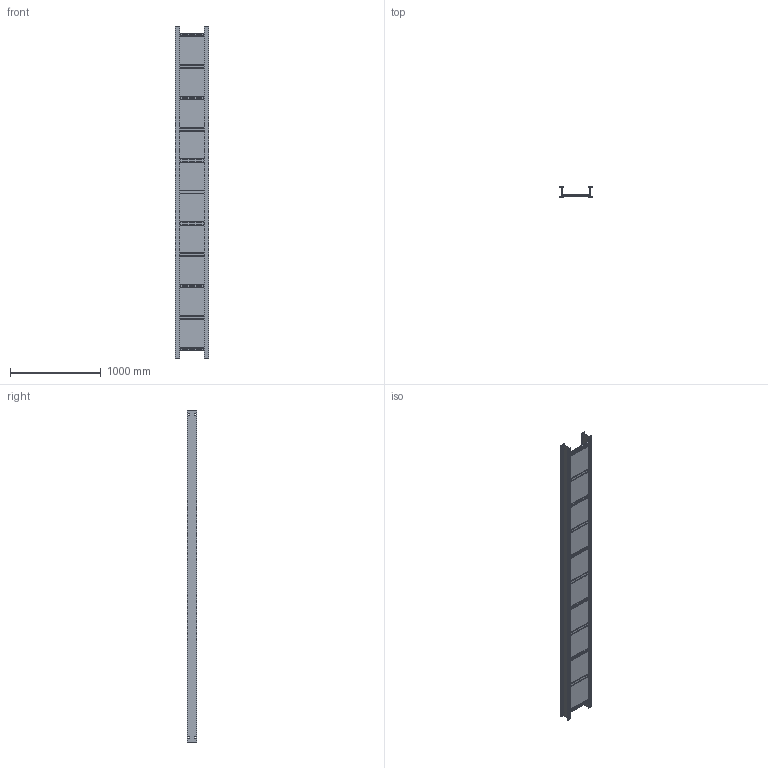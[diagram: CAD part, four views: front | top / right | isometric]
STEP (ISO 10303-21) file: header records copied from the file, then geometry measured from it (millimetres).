
FILE_DESCRIPTION((''),'2;1');
FILE_NAME('AH5412L12144_ASM','2010-02-05T',('erouzier'),(''),'PRO/ENGINEER BY PARAMETRIC TECHNOLOGY CORPORATION, 2008510','PRO/ENGINEER BY PARAMETRIC TECHNOLOGY CORPORATION, 2008510','');
FILE_SCHEMA(('CONFIG_CONTROL_DESIGN'));
Length unit declared in the file: inch
Products named in the file (14): CDS001442-007_AF3; CDS001442-007_AF4; CDS002159L12-P_AF0; CDS002159L12-P_AF1; CDS002159L12-P_AF2; CDS002159L12-P_AF3; CDS002159L12-P_AF4; CDS002159L12-P_AF5; CDS002159L12-P_AF6; CDS002159L12-P_AF7; CDS002159L12-P_AF8; CDS002159L12-P_AF9; CDS002159L12-P_AF10; AH5412L12144_ASM
Assembly tree (13 placements, depth 2):
  AH5412L12144_ASM
    CDS001442-007_AF3
    CDS001442-007_AF4
    CDS002159L12-P_AF0
    CDS002159L12-P_AF1
    CDS002159L12-P_AF2
    CDS002159L12-P_AF3
    CDS002159L12-P_AF4
    CDS002159L12-P_AF5
    CDS002159L12-P_AF6
    CDS002159L12-P_AF7
    CDS002159L12-P_AF8
    CDS002159L12-P_AF9
    CDS002159L12-P_AF10
Bounding box: 365.25 x 107.62 x 3657.6 mm (x, y, z)
Volume: 4544039.9 mm3; surface area: 4659501.5 mm2
Topology: 13 solids, 14 shells, 1287 faces, 3784 edges, 2524 vertices
Faces by surface type: plane 722, cylinder 565
Entity records: 43831 total; most frequent: CARTESIAN_POINT 7622, ORIENTED_EDGE 7564, DIRECTION 7542, EDGE_CURVE 3784, VECTOR 2654, LINE 2654, VERTEX_POINT 2524, AXIS2_PLACEMENT_3D 2444
